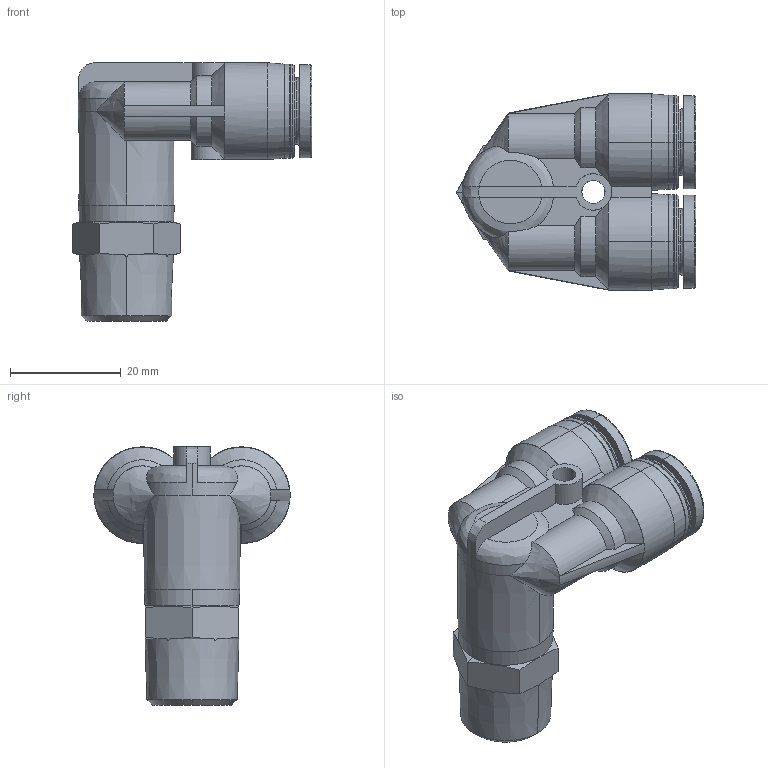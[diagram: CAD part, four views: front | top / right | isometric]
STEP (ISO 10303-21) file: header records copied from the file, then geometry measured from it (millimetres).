
FILE_DESCRIPTION (( 'STEP AP214' ), '1' );
FILE_NAME ('APAX10-03.STEP', '2019-12-05T03:42:41', ( '微软用户' ), ( '微软中国' ), 'SwSTEP 2.0', 'SolidWorks 2016', '' );
FILE_SCHEMA (( 'AUTOMOTIVE_DESIGN' ));
Length unit declared in the file: millimetre
Products named in the file (1): APAX10-03
Bounding box: 43.31 x 35.5 x 46.75 mm (x, y, z)
Volume: 18503.6 mm3; surface area: 8153 mm2
Topology: 1 solids, 1 shells, 148 faces, 376 edges, 237 vertices
Faces by surface type: cone 49, cylinder 46, plane 38, bspline 15
Entity records: 5533 total; most frequent: CARTESIAN_POINT 2044, ORIENTED_EDGE 748, DIRECTION 711, EDGE_CURVE 374, AXIS2_PLACEMENT_3D 296, VERTEX_POINT 237, CIRCLE 162, EDGE_LOOP 159
